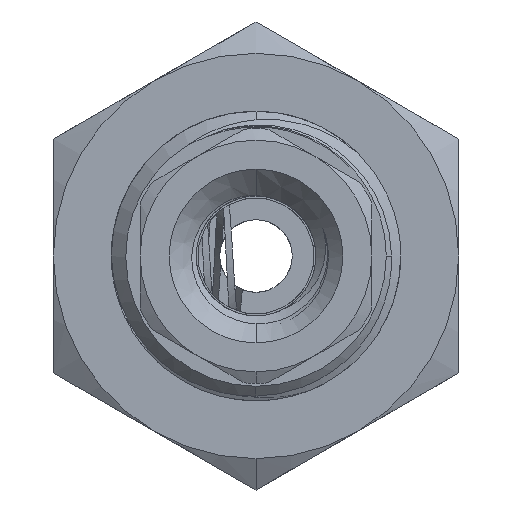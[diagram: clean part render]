
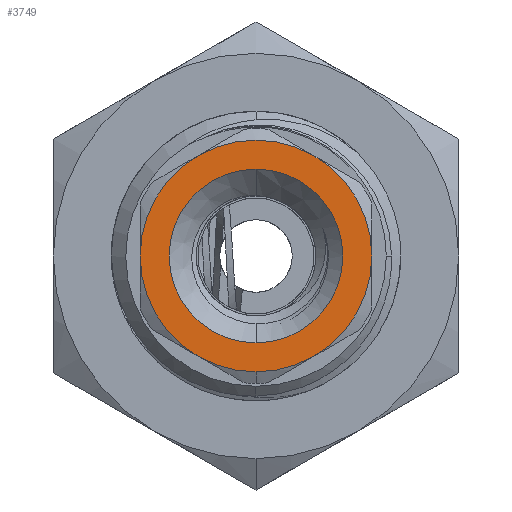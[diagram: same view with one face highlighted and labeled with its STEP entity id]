
A CAD part, front view. The second image highlights one B-rep face of the part: STEP entity #3749.
In plain terms, the highlighted planar face has unit normal (0, -1, 0).
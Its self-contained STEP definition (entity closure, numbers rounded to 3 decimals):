
#156 = EDGE_CURVE ( 'NONE', #8481, #4366, #9880, .T. ) ;
#381 = VERTEX_POINT ( 'NONE', #9539 ) ;
#412 = AXIS2_PLACEMENT_3D ( 'NONE', #5217, #5060, #6009 ) ;
#436 = EDGE_CURVE ( 'NONE', #3716, #2940, #1370, .T. ) ;
#1027 = VERTEX_POINT ( 'NONE', #9266 ) ;
#1370 = CIRCLE ( 'NONE', #7827, 4. ) ;
#1431 = CARTESIAN_POINT ( 'NONE',  ( 4., -10.5, 0. ) ) ;
#1751 = AXIS2_PLACEMENT_3D ( 'NONE', #6396, #9644, #5350 ) ;
#1779 = CIRCLE ( 'NONE', #7041, 3. ) ;
#1888 = AXIS2_PLACEMENT_3D ( 'NONE', #5794, #9031, #5002 ) ;
#2003 = CARTESIAN_POINT ( 'NONE',  ( 0., -10.5, 0. ) ) ;
#2098 = CARTESIAN_POINT ( 'NONE',  ( 0., -10.5, 0. ) ) ;
#2254 = CARTESIAN_POINT ( 'NONE',  ( -2., -10.5, -3.464 ) ) ;
#2279 = CARTESIAN_POINT ( 'NONE',  ( 0., -10.5, 0. ) ) ;
#2323 = CARTESIAN_POINT ( 'NONE',  ( -4., -10.5, 0. ) ) ;
#2523 = DIRECTION ( 'NONE',  ( 0., -1., 0. ) ) ;
#2573 = ORIENTED_EDGE ( 'NONE', *, *, #10341, .F. ) ;
#2714 = EDGE_CURVE ( 'NONE', #381, #8481, #10237, .T. ) ;
#2741 = DIRECTION ( 'NONE',  ( 0., -1., 0. ) ) ;
#2940 = VERTEX_POINT ( 'NONE', #2254 ) ;
#2977 = FACE_BOUND ( 'NONE', #9106, .T. ) ;
#3026 = DIRECTION ( 'NONE',  ( 0., 1., 0. ) ) ;
#3140 = CIRCLE ( 'NONE', #412, 4. ) ;
#3279 = VERTEX_POINT ( 'NONE', #5386 ) ;
#3416 = ORIENTED_EDGE ( 'NONE', *, *, #2714, .T. ) ;
#3432 = DIRECTION ( 'NONE',  ( 0., -1., 0. ) ) ;
#3543 = CARTESIAN_POINT ( 'NONE',  ( 0., -10.5, 3. ) ) ;
#3545 = CARTESIAN_POINT ( 'NONE',  ( 0., -10.5, 0. ) ) ;
#3716 = VERTEX_POINT ( 'NONE', #2323 ) ;
#3749 = ADVANCED_FACE ( 'NONE', ( #2977, #3766 ), #3869, .F. ) ;
#3766 = FACE_OUTER_BOUND ( 'NONE', #8392, .T. ) ;
#3848 = ORIENTED_EDGE ( 'NONE', *, *, #7791, .T. ) ;
#3869 = PLANE ( 'NONE',  #6172 ) ;
#3975 = AXIS2_PLACEMENT_3D ( 'NONE', #2279, #5514, #5623 ) ;
#4079 = EDGE_CURVE ( 'NONE', #10017, #5067, #9050, .T. ) ;
#4366 = VERTEX_POINT ( 'NONE', #1431 ) ;
#4394 = ORIENTED_EDGE ( 'NONE', *, *, #8869, .T. ) ;
#4780 = DIRECTION ( 'NONE',  ( 1., 0., 0. ) ) ;
#4845 = CIRCLE ( 'NONE', #6207, 4. ) ;
#5002 = DIRECTION ( 'NONE',  ( 0.5, 0., -0.866 ) ) ;
#5060 = DIRECTION ( 'NONE',  ( 0., -1., 0. ) ) ;
#5067 = VERTEX_POINT ( 'NONE', #9492 ) ;
#5084 = DIRECTION ( 'NONE',  ( 0., -1., 0. ) ) ;
#5217 = CARTESIAN_POINT ( 'NONE',  ( 0., -10.5, 0. ) ) ;
#5350 = DIRECTION ( 'NONE',  ( 0., 0., 1. ) ) ;
#5386 = CARTESIAN_POINT ( 'NONE',  ( 2., -10.5, 3.464 ) ) ;
#5514 = DIRECTION ( 'NONE',  ( 0., -1., 0. ) ) ;
#5623 = DIRECTION ( 'NONE',  ( 0.5, 0., 0.866 ) ) ;
#5690 = CIRCLE ( 'NONE', #7043, 4. ) ;
#5794 = CARTESIAN_POINT ( 'NONE',  ( 0., -10.5, 0. ) ) ;
#5817 = DIRECTION ( 'NONE',  ( -1., 0., 0. ) ) ;
#6009 = DIRECTION ( 'NONE',  ( -0.5, 0., -0.866 ) ) ;
#6172 = AXIS2_PLACEMENT_3D ( 'NONE', #7003, #3026, #8638 ) ;
#6207 = AXIS2_PLACEMENT_3D ( 'NONE', #2003, #5084, #7576 ) ;
#6393 = DIRECTION ( 'NONE',  ( 0., 0., -1. ) ) ;
#6396 = CARTESIAN_POINT ( 'NONE',  ( 0., -10.5, 0. ) ) ;
#6493 = ORIENTED_EDGE ( 'NONE', *, *, #7650, .T. ) ;
#6930 = DIRECTION ( 'NONE',  ( 0., -1., 0. ) ) ;
#7003 = CARTESIAN_POINT ( 'NONE',  ( 0., -10.5, 0. ) ) ;
#7041 = AXIS2_PLACEMENT_3D ( 'NONE', #9808, #2523, #6393 ) ;
#7043 = AXIS2_PLACEMENT_3D ( 'NONE', #2098, #6930, #4780 ) ;
#7125 = CARTESIAN_POINT ( 'NONE',  ( 2., -10.5, -3.464 ) ) ;
#7172 = AXIS2_PLACEMENT_3D ( 'NONE', #3545, #2741, #7678 ) ;
#7356 = CARTESIAN_POINT ( 'NONE',  ( 0., -10.5, 0. ) ) ;
#7398 = ORIENTED_EDGE ( 'NONE', *, *, #8615, .T. ) ;
#7576 = DIRECTION ( 'NONE',  ( -0.5, 0., 0.866 ) ) ;
#7650 = EDGE_CURVE ( 'NONE', #1027, #3716, #4845, .T. ) ;
#7678 = DIRECTION ( 'NONE',  ( -0.5, 0., -0.866 ) ) ;
#7757 = ORIENTED_EDGE ( 'NONE', *, *, #156, .T. ) ;
#7791 = EDGE_CURVE ( 'NONE', #4366, #3279, #5690, .T. ) ;
#7827 = AXIS2_PLACEMENT_3D ( 'NONE', #7356, #3432, #5817 ) ;
#8095 = ORIENTED_EDGE ( 'NONE', *, *, #436, .T. ) ;
#8158 = ORIENTED_EDGE ( 'NONE', *, *, #4079, .F. ) ;
#8392 = EDGE_LOOP ( 'NONE', ( #6493, #8095, #7398, #3416, #7757, #3848, #4394 ) ) ;
#8481 = VERTEX_POINT ( 'NONE', #7125 ) ;
#8555 = CIRCLE ( 'NONE', #3975, 4. ) ;
#8615 = EDGE_CURVE ( 'NONE', #2940, #381, #3140, .T. ) ;
#8638 = DIRECTION ( 'NONE',  ( 1., 0., 0. ) ) ;
#8869 = EDGE_CURVE ( 'NONE', #3279, #1027, #8555, .T. ) ;
#9031 = DIRECTION ( 'NONE',  ( 0., -1., 0. ) ) ;
#9050 = CIRCLE ( 'NONE', #1751, 3. ) ;
#9106 = EDGE_LOOP ( 'NONE', ( #2573, #8158 ) ) ;
#9266 = CARTESIAN_POINT ( 'NONE',  ( -2., -10.5, 3.464 ) ) ;
#9492 = CARTESIAN_POINT ( 'NONE',  ( 0., -10.5, -3. ) ) ;
#9539 = CARTESIAN_POINT ( 'NONE',  ( 0., -10.5, -4. ) ) ;
#9644 = DIRECTION ( 'NONE',  ( 0., -1., 0. ) ) ;
#9808 = CARTESIAN_POINT ( 'NONE',  ( 0., -10.5, 0. ) ) ;
#9880 = CIRCLE ( 'NONE', #1888, 4. ) ;
#10017 = VERTEX_POINT ( 'NONE', #3543 ) ;
#10237 = CIRCLE ( 'NONE', #7172, 4. ) ;
#10341 = EDGE_CURVE ( 'NONE', #5067, #10017, #1779, .T. ) ;
